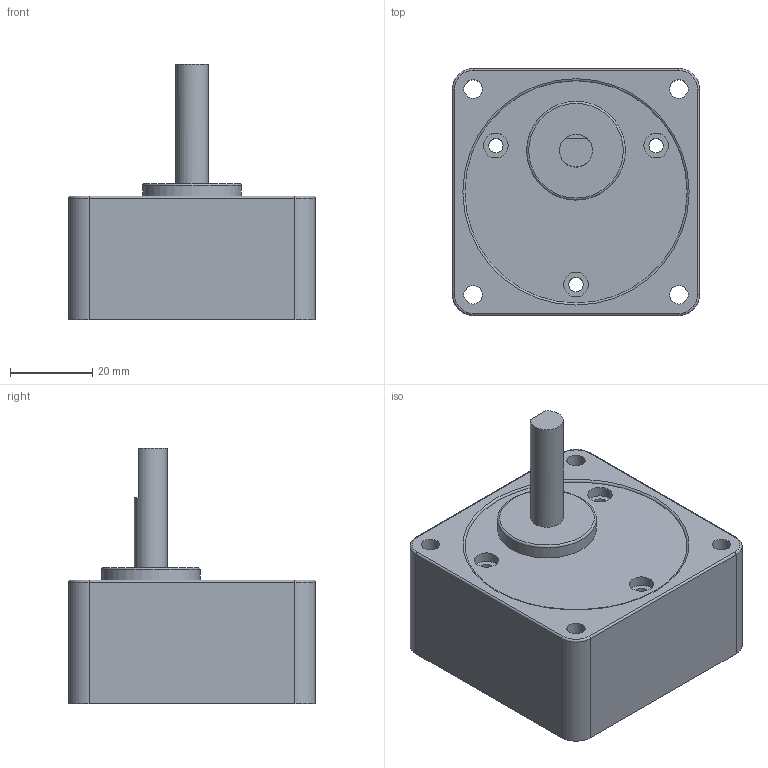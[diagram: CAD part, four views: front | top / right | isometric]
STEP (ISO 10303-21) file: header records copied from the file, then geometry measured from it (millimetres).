
FILE_DESCRIPTION((''),'2;1');
FILE_NAME('E:\2공장-도면\3D\표준형 3D(민규)\step file\K6G(3~18)B(C).stp','2014-11-05T09:48:15',('AHN'),(''),'Autodesk Inventor 2012','Autodesk Inventor 2012','');
FILE_SCHEMA(('CONFIG_CONTROL_DESIGN'));
Length unit declared in the file: millimetre
Products named in the file (1): K6G(3~18)B(C)
Bounding box: 60 x 60 x 62 mm (x, y, z)
Volume: 94976.4 mm3; surface area: 18295.7 mm2
Topology: 1 solids, 1 shells, 42 faces, 93 edges, 60 vertices
Faces by surface type: cylinder 21, plane 15, torus 6
Full cylindrical faces by diameter (mm): 3.5 x3, 4.5 x4, 6 x3, 8 x1, 24 x1, 54 x1
Entity records: 1122 total; most frequent: DIRECTION 210, CARTESIAN_POINT 173, ORIENTED_EDGE 148, AXIS2_PLACEMENT_3D 93, EDGE_LOOP 78, EDGE_CURVE 74, VERTEX_POINT 56, CIRCLE 50
